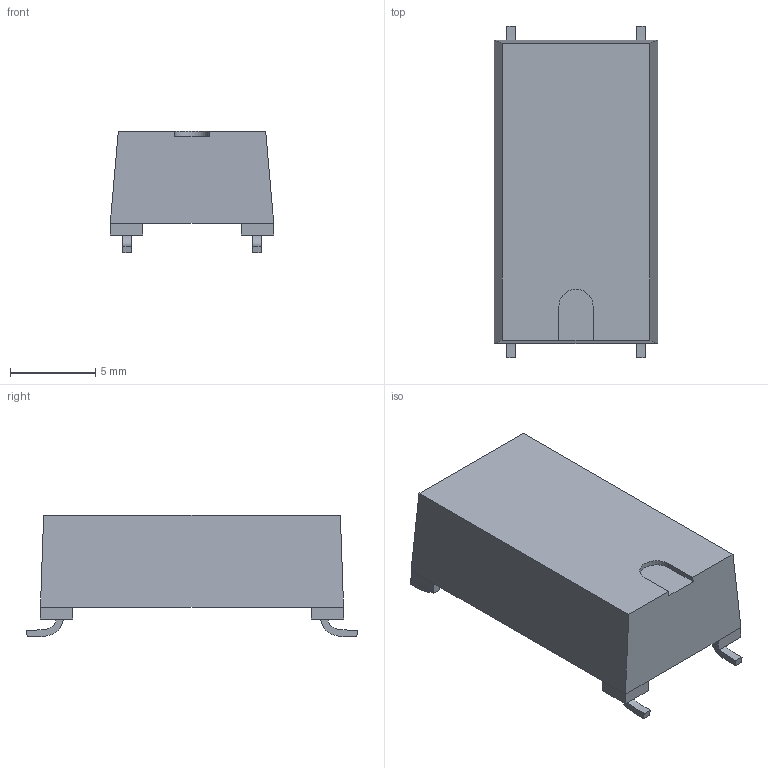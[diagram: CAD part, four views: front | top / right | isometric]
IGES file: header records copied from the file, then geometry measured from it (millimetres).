
Start section: SolidWorks IGES file using analytic representation for surfaces
Global section: file name: C:\Users\David\Dropbox\Jose Espina\Component Packages\CNY65\CNY65-SMD.IGS; native system: SolidWorks 2015; preprocessor: SolidWorks 2015; author: David; date: 151202.210552; units: millimetre
Bounding box: 9.6 x 19.45 x 7.15 mm (x, y, z)
Volume: 873.6 mm3; surface area: 656.1 mm2
Topology: 1 solids, 1 shells, 58 faces, 144 edges, 92 vertices
Faces by surface type: plane 49, bspline 8, revolution 1
